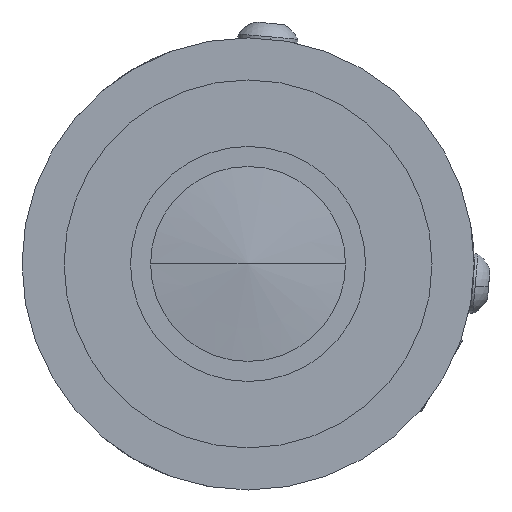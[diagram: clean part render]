
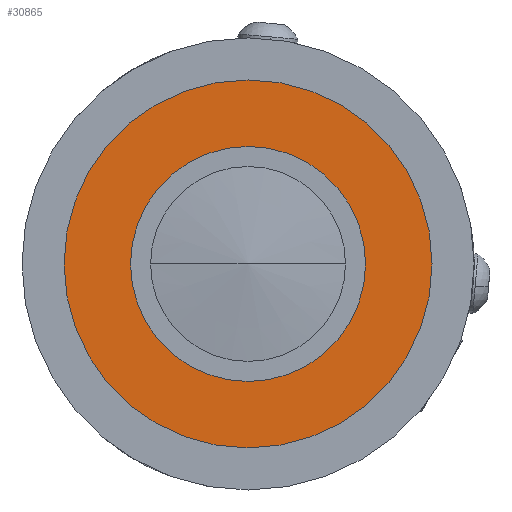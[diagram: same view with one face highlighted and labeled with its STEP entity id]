
A CAD part, left-side view. The second image highlights one B-rep face of the part: STEP entity #30865.
In plain terms, the highlighted planar face has unit normal (-1, 0, 0).
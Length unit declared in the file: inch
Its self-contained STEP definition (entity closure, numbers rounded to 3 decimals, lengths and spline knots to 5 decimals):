
#151 = VERTEX_POINT ( 'NONE', #48357 ) ;
#791 = DIRECTION ( 'NONE',  ( 1., 0., 0. ) ) ;
#2491 = ORIENTED_EDGE ( 'NONE', *, *, #3426, .F. ) ;
#3426 = EDGE_CURVE ( 'NONE', #151, #26738, #39125, .T. ) ;
#5781 = AXIS2_PLACEMENT_3D ( 'NONE', #11695, #39522, #15695 ) ;
#8026 = DIRECTION ( 'NONE',  ( 0., -1., 0. ) ) ;
#8045 = DIRECTION ( 'NONE',  ( 1., 0., 0. ) ) ;
#8455 = ORIENTED_EDGE ( 'NONE', *, *, #33012, .T. ) ;
#8560 = EDGE_CURVE ( 'NONE', #26738, #151, #16960, .T. ) ;
#9806 = DIRECTION ( 'NONE',  ( 1., 0., 0. ) ) ;
#11695 = CARTESIAN_POINT ( 'NONE',  ( 0.36857, 0., 0. ) ) ;
#11883 = PLANE ( 'NONE',  #47883 ) ;
#11982 = EDGE_LOOP ( 'NONE', ( #8455, #16829 ) ) ;
#15596 = CARTESIAN_POINT ( 'NONE',  ( 0.36857, 0.43898, 0. ) ) ;
#15695 = DIRECTION ( 'NONE',  ( 0., 1., 0. ) ) ;
#16829 = ORIENTED_EDGE ( 'NONE', *, *, #45314, .T. ) ;
#16960 = CIRCLE ( 'NONE', #34928, 0.6875 ) ;
#18202 = FACE_OUTER_BOUND ( 'NONE', #27047, .T. ) ;
#18989 = AXIS2_PLACEMENT_3D ( 'NONE', #33691, #9806, #37659 ) ;
#20441 = VERTEX_POINT ( 'NONE', #27807 ) ;
#21943 = FACE_BOUND ( 'NONE', #11982, .T. ) ;
#22070 = ORIENTED_EDGE ( 'NONE', *, *, #8560, .F. ) ;
#24610 = CARTESIAN_POINT ( 'NONE',  ( 0.36857, 0., 0. ) ) ;
#25434 = AXIS2_PLACEMENT_3D ( 'NONE', #31907, #8045, #35908 ) ;
#26738 = VERTEX_POINT ( 'NONE', #27213 ) ;
#27047 = EDGE_LOOP ( 'NONE', ( #22070, #2491 ) ) ;
#27213 = CARTESIAN_POINT ( 'NONE',  ( 0.36857, 0.6875, 0. ) ) ;
#27807 = CARTESIAN_POINT ( 'NONE',  ( 0.36857, -0.43898, 0. ) ) ;
#27862 = CARTESIAN_POINT ( 'NONE',  ( 0.36857, 0.43898, 0. ) ) ;
#28622 = DIRECTION ( 'NONE',  ( 0., 1., 0. ) ) ;
#30865 = ADVANCED_FACE ( 'NONE', ( #21943, #18202 ), #11883, .T. ) ;
#31886 = DIRECTION ( 'NONE',  ( -1., 0., 0. ) ) ;
#31907 = CARTESIAN_POINT ( 'NONE',  ( 0.36857, 0., 0. ) ) ;
#33012 = EDGE_CURVE ( 'NONE', #43556, #20441, #33719, .T. ) ;
#33691 = CARTESIAN_POINT ( 'NONE',  ( 0.36857, 0., 0. ) ) ;
#33719 = CIRCLE ( 'NONE', #18989, 0.43898 ) ;
#34928 = AXIS2_PLACEMENT_3D ( 'NONE', #24610, #791, #28622 ) ;
#35908 = DIRECTION ( 'NONE',  ( 0., 1., 0. ) ) ;
#37005 = CIRCLE ( 'NONE', #25434, 0.43898 ) ;
#37659 = DIRECTION ( 'NONE',  ( 0., 1., 0. ) ) ;
#39125 = CIRCLE ( 'NONE', #5781, 0.6875 ) ;
#39522 = DIRECTION ( 'NONE',  ( 1., 0., 0. ) ) ;
#43556 = VERTEX_POINT ( 'NONE', #15596 ) ;
#45314 = EDGE_CURVE ( 'NONE', #20441, #43556, #37005, .T. ) ;
#47883 = AXIS2_PLACEMENT_3D ( 'NONE', #27862, #31886, #8026 ) ;
#48357 = CARTESIAN_POINT ( 'NONE',  ( 0.36857, -0.6875, 0. ) ) ;
